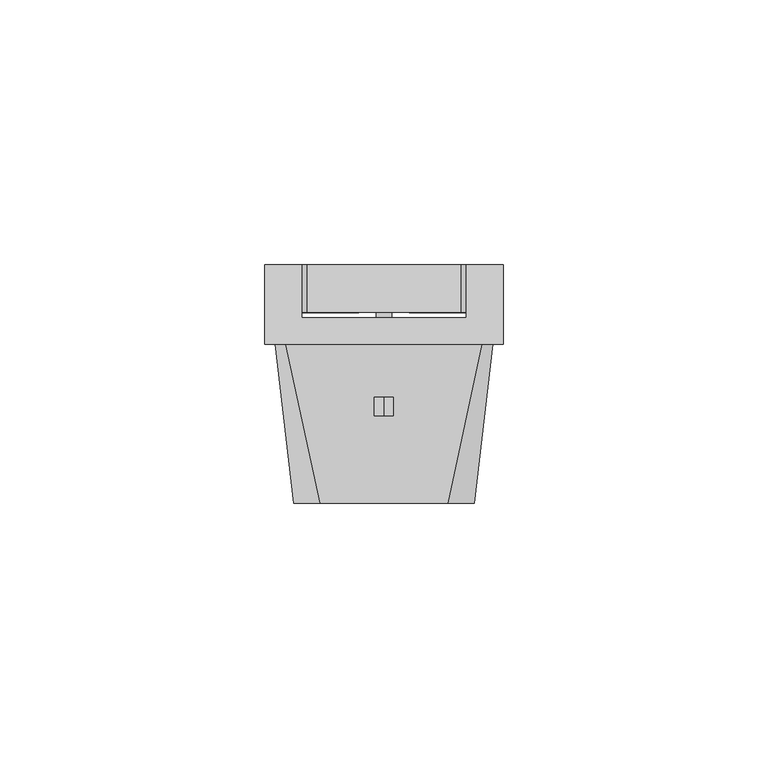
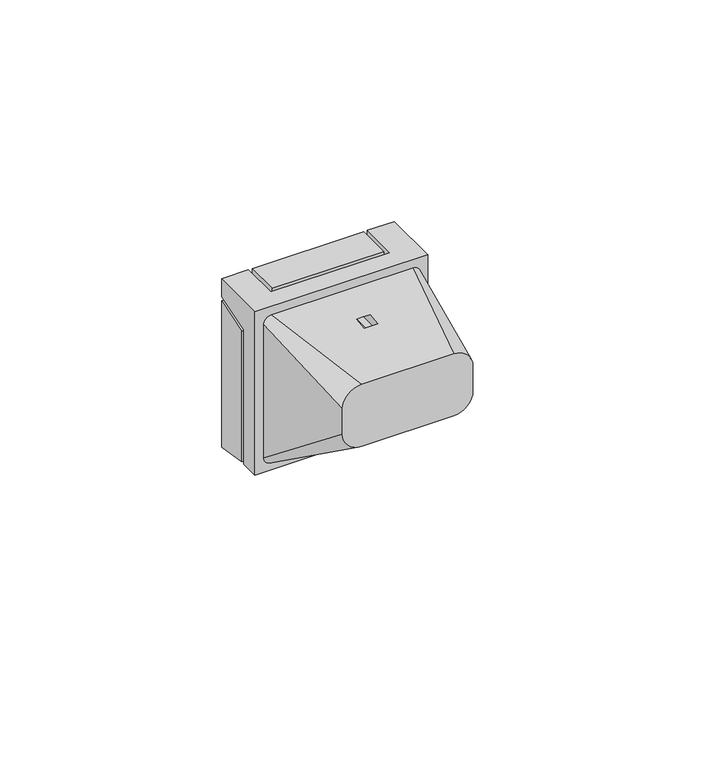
"""IFC4 building model written with IfcOpenShell, lengths in millimetres: proxy geometry, IEK_Skandy_Механизм розетки 230В : 230 В PE+шт.+кр. IP44_SK-R11B."""

from ifc_helpers import new_model, si_unit, point, frame, frame_2d, origin, origin_2d, place, context, project, spatial, polyline, circle_curve, ellipse_curve, trimmed, segment, composite_curve, outline, extrude, faceted_brep, source, transform, mapped, element, save
from ifc_brep_helpers import plane_surface, cylinder_surface, revolved_surface, spline_surface, advanced_brep


def electrical_fixtures_7aa9f29c(model_context):
    return source(origin(), model_context, "Body", "SolidModel", [
        faceted_brep([(15.5, 15.0, 22.5), (22.5, 15.0, 22.5), (22.5, 15.0, 17.5), (15.5, 15.0, 17.5), (-22.5, 15.0, 22.5), (-15.5, 15.0, 22.5), (-15.5, 15.0, 17.5), (-22.5, 15.0, 17.5), (-22.5, 0.0, 22.5), (-22.5, 0.0, -22.5), (22.5, 0.0, -22.5), (22.5, 0.0, 22.5), (-22.5, 5.0, 14.501454), (-22.5, 5.0, -22.5), (22.5, 5.0, -22.5), (22.5, 5.0, 14.501454), (15.5, 5.0, 22.5), (-15.5, 5.0, 22.5), (15.5, 5.0, 14.501454), (-15.5, 5.0, 14.501454), (18.3514689, 5.0, -3.1615677), (18.3514689, 5.0, 2.8384323), (4.7443645, 5.0, 2.8384323), (4.7443645, 5.0, -3.1615677), (-18.243706, 5.0, 2.8384323), (-18.243706, 5.0, -3.1615677), (-4.7443645, 5.0, -3.1615677), (-4.7443645, 5.0, 2.8384323), (18.3514689, 1.865818, 2.8384323), (18.3514689, 1.865818, -3.1615677), (4.7443645, 1.865818, -3.1615677), (4.7443645, 1.865818, 2.8384323), (-18.243706, 1.865818, 2.8384323), (-4.7443645, 1.865818, 2.8384323), (-4.7443645, 1.865818, -3.1615677), (-18.243706, 1.865818, -3.1615677)], [[[0, 1, 2, 3]], [[4, 5, 6, 7]], [[8, 9, 10, 11]], [[9, 8, 4, 7, 12, 13]], [[10, 9, 13, 14]], [[11, 10, 14, 15, 2, 1]], [[8, 11, 1, 0, 16, 17, 5, 4]], [[18, 15, 14, 13, 12, 19, 17, 16], [20, 21, 22, 23], [24, 25, 26, 27]], [[18, 16, 0, 3]], [[17, 19, 6, 5]], [[19, 12, 7, 6]], [[15, 18, 3, 2]], [[28, 29, 30, 31]], [[29, 28, 21, 20]], [[30, 29, 20, 23]], [[31, 30, 23, 22]], [[28, 31, 22, 21]], [[32, 33, 34, 35]], [[32, 35, 25, 24]], [[35, 34, 26, 25]], [[34, 33, 27, 26]], [[33, 32, 24, 27]]]),
        faceted_brep([(14.5, 15.0, 22.5), (14.5, 15.0, 16.5083131), (22.5, 15.0, 16.5083131), (22.5, 15.0, -23.9237578), (-22.5, 15.0, -23.9237578), (-22.5, 15.0, 16.5083131), (-14.5, 15.0, 16.5083131), (-14.5, 15.0, 22.5), (14.5, 6.0, 22.5), (-14.5, 6.0, 22.5), (-14.5, 6.0, 13.501454), (-22.5, 6.0, 13.501454), (-22.5, 6.0, -22.5), (22.5, 6.0, -22.5), (22.5, 6.0, 13.501454), (14.5, 6.0, 13.501454), (18.3514689, 6.0, 2.8384323), (18.3514689, 6.0, -3.1615677), (4.7443645, 6.0, -3.1615677), (4.7443645, 6.0, 2.8384323), (-18.243706, 6.0, -3.1615677), (-18.243706, 6.0, 2.8384323), (-4.7443645, 6.0, 2.8384323), (-4.7443645, 6.0, -3.1615677), (18.3514689, 10.0, 2.8384323), (4.7443645, 10.0, 2.8384323), (4.7443645, 10.0, -3.1615677), (18.3514689, 10.0, -3.1615677), (-18.243706, 10.0, 2.8384323), (-18.243706, 10.0, -3.1615677), (-4.7443645, 10.0, -3.1615677), (-4.7443645, 10.0, 2.8384323)], [[[0, 1, 2, 3, 4, 5, 6, 7]], [[8, 9, 10, 11, 12, 13, 14, 15], [16, 17, 18, 19], [20, 21, 22, 23]], [[1, 0, 8, 15]], [[2, 1, 15, 14]], [[3, 2, 14, 13]], [[5, 4, 12, 11]], [[6, 5, 11, 10]], [[7, 6, 10, 9]], [[0, 7, 9, 8]], [[4, 3, 13, 12]], [[24, 25, 26, 27]], [[24, 27, 17, 16]], [[27, 26, 18, 17]], [[26, 25, 19, 18]], [[25, 24, 16, 19]], [[28, 29, 30, 31]], [[29, 28, 21, 20]], [[30, 29, 20, 23]], [[31, 30, 23, 22]], [[28, 31, 22, 21]]]),
        advanced_brep(
        [(-12.0, -30.0, 17.0), (-17.0, -30.0, 12.0), (-17.0, -30.0, 5.0), (-12.0, -30.0, 0.0), (12.0, -30.0, 0.0), (17.0, -30.0, 5.0), (17.0, -30.0, 12.0), (12.0, -30.0, 17.0), (-18.5, 0.0, 20.5), (18.5, 0.0, 20.5), (20.5, 0.0, 18.5), (20.5, 0.0, -18.5), (18.5, 0.0, -20.5), (-18.5, 0.0, -20.5), (-20.5, 0.0, -18.5), (-20.5, 0.0, 18.5), (6.3904783, 0.0, 0.0), (11.8753617, 0.0, 0.0), (-3.0105286, 0.0, 0.0), (3.0105286, 0.0, 0.0), (-11.8753617, 0.0, 0.0), (-6.3904783, 0.0, 0.0), (1.7917908, 0.0, -19.3280847), (1.7917908, 0.0, -16.8280847), (0.0, 0.0, -16.8280847), (-1.7917908, 0.0, -16.8280847), (-1.7917908, 0.0, -19.3280847), (0.0, 0.0, -19.3280847), (1.7917908, 0.0, 19.3280847), (0.0, 0.0, 19.3280847), (-1.7917908, 0.0, 19.3280847), (-1.7917908, 0.0, 16.8280847), (0.0, 0.0, 16.8280847), (1.7917908, 0.0, 16.8280847), (1.7917908, -13.4962918, 18.9254326), (-1.7917908, -13.4962918, 18.9254326), (-1.7917908, -10.0449886, 19.3280847), (0.0, -10.0449886, 19.3280847), (1.7917908, -10.0449886, 19.3280847), (1.7917908, -5.3735346, -16.8280847), (1.7917908, -1.7149981, -19.3280847), (0.0, -1.7149981, -19.3280847), (-1.7917908, -1.7149981, -19.3280847), (-1.7917908, -5.3735346, -16.8280847), (0.0, -5.3735346, -16.8280847), (6.3904783, -13.4962918, 0.0), (11.8753617, -13.4962918, 0.0), (-3.0105286, -13.4962918, 0.0), (3.0105286, -13.4962918, 0.0), (-11.8753617, -13.4962918, 0.0), (-6.3904783, -13.4962918, 0.0), (1.7917908, -13.4962918, 16.8280847), (0.0, -13.4962918, 16.8280847), (-1.7917908, -13.4962918, 16.8280847)],
        [
            (0, 1, circle_curve(frame((-12.0, -30.0, 12.0), z_axis=(0.0, -1.0, 0.0), x_axis=(1.0, 0.0, 0.0)), 5.0)),
            (1, 2),
            (2, 3, circle_curve(frame((-12.0, -30.0, 5.0), z_axis=(0.0, -1.0, 0.0), x_axis=(1.0, 0.0, 0.0)), 5.0)),
            (3, 4),
            (4, 5, circle_curve(frame((12.0, -30.0, 5.0), z_axis=(0.0, -1.0, 0.0), x_axis=(1.0, 0.0, 0.0)), 5.0)),
            (5, 6),
            (6, 7, circle_curve(frame((12.0, -30.0, 12.0), z_axis=(0.0, -1.0, 0.0), x_axis=(1.0, 0.0, 0.0)), 5.0)),
            (7, 0),
            (8, 9),
            (9, 10, circle_curve(frame((18.5, 0.0, 18.5), z_axis=(0.0, 1.0, 0.0), x_axis=(1.0, 0.0, 0.0)), 2.0)),
            (10, 11),
            (11, 12, circle_curve(frame((18.5, 0.0, -18.5), z_axis=(0.0, 1.0, 0.0), x_axis=(1.0, 0.0, 0.0)), 2.0)),
            (12, 13),
            (13, 14, circle_curve(frame((-18.5, 0.0, -18.5), z_axis=(0.0, 1.0, 0.0), x_axis=(1.0, 0.0, 0.0)), 2.0)),
            (14, 15),
            (15, 8, circle_curve(frame((-18.5, 0.0, 18.5), z_axis=(0.0, 1.0, 0.0), x_axis=(1.0, 0.0, 0.0)), 2.0)),
            (16, 17, circle_curve(frame((9.13292, 0.0, 0.0), z_axis=(0.0, -1.0, 0.0), x_axis=(1.0, 0.0, 0.0)), 2.7424417)),
            (17, 16, circle_curve(frame((9.13292, 0.0, 0.0), z_axis=(0.0, -1.0, 0.0), x_axis=(1.0, 0.0, 0.0)), 2.7424417)),
            (18, 19, circle_curve(frame((0.0, 0.0, 0.0), z_axis=(0.0, -1.0, 0.0), x_axis=(1.0, 0.0, 0.0)), 3.0105286)),
            (19, 18, circle_curve(frame((0.0, 0.0, 0.0), z_axis=(0.0, -1.0, 0.0), x_axis=(1.0, 0.0, 0.0)), 3.0105286)),
            (20, 21, circle_curve(frame((-9.13292, 0.0, 0.0), z_axis=(0.0, -1.0, 0.0), x_axis=(1.0, 0.0, 0.0)), 2.7424417)),
            (21, 20, circle_curve(frame((-9.13292, 0.0, 0.0), z_axis=(0.0, -1.0, 0.0), x_axis=(1.0, 0.0, 0.0)), 2.7424417)),
            (22, 23),
            (23, 24),
            (24, 25),
            (25, 26),
            (26, 27),
            (27, 22),
            (28, 29),
            (29, 30),
            (30, 31),
            (31, 32),
            (32, 33),
            (33, 28),
            (7, 9),
            (8, 0),
            (34, 35),
            (35, 36),
            (36, 37),
            (37, 38),
            (38, 34),
            (6, 10),
            (5, 11),
            (4, 12),
            (3, 13),
            (39, 40),
            (40, 41),
            (41, 42),
            (42, 43),
            (43, 44),
            (44, 39),
            (2, 14),
            (1, 15),
            (45, 46, circle_curve(frame((9.13292, -13.4962918, 0.0), z_axis=(0.0, 1.0, 0.0), x_axis=(1.0, 0.0, 0.0)), 2.7424417)),
            (46, 45, circle_curve(frame((9.13292, -13.4962918, 0.0), z_axis=(0.0, 1.0, 0.0), x_axis=(1.0, 0.0, 0.0)), 2.7424417)),
            (47, 48, circle_curve(frame((0.0, -13.4962918, 0.0), z_axis=(0.0, 1.0, 0.0), x_axis=(1.0, 0.0, 0.0)), 3.0105286)),
            (48, 47, circle_curve(frame((0.0, -13.4962918, 0.0), z_axis=(0.0, 1.0, 0.0), x_axis=(1.0, 0.0, 0.0)), 3.0105286)),
            (49, 50, circle_curve(frame((-9.13292, -13.4962918, 0.0), z_axis=(0.0, 1.0, 0.0), x_axis=(1.0, 0.0, 0.0)), 2.7424417)),
            (50, 49, circle_curve(frame((-9.13292, -13.4962918, 0.0), z_axis=(0.0, 1.0, 0.0), x_axis=(1.0, 0.0, 0.0)), 2.7424417)),
            (51, 52),
            (52, 53),
            (53, 35),
            (34, 51),
            (46, 17),
            (16, 45),
            (48, 19),
            (18, 47),
            (50, 21),
            (20, 49),
            (28, 38),
            (37, 29),
            (36, 30),
            (53, 31),
            (52, 32),
            (51, 33),
            (22, 40),
            (39, 23),
            (44, 24),
            (43, 25),
            (42, 26),
            (41, 27),
        ],
        [
            plane_surface(frame((0.0, -30.0, 8.5), z_axis=(0.0, -1.0, 0.0), x_axis=(-1.0, 0.0, 0.0))),
            plane_surface(frame((0.0, 0.0, 0.0), z_axis=(0.0, 1.0, 0.0), x_axis=(-1.0, 0.0, 0.0))),
            plane_surface(frame((0.0, 0.0, 20.5), z_axis=(0.0, -0.11588069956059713, 0.9932631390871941), x_axis=(-1.0, 0.0, 0.0))),
            spline_surface(2, 1, [[(20.5, 0.0, 18.5), (17.0, -30.0, 12.0)], [(20.5, 0.0, 20.5), (17.0, -30.0, 17.0)], [(18.5, 0.0, 20.5), (12.0, -30.0, 17.0)]], [3, 3], [2, 2], [0.0, 1.0], [0.0, 1.0], weights=[[1.0, 1.0], [0.7071067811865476, 0.7071067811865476], [1.0, 1.0]]),
            plane_surface(frame((20.5, 0.0, 0.0), z_axis=(0.993263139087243, -0.11588069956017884, 0.0), x_axis=(0.0, 0.0, 1.0))),
            spline_surface(2, 1, [[(18.5, 0.0, -20.5), (12.0, -30.0, 0.0)], [(20.5, 0.0, -20.5), (17.0, -30.0, 0.0)], [(20.5, 0.0, -18.5), (17.0, -30.0, 5.0)]], [3, 3], [2, 2], [0.0, 1.0], [0.0, 1.0], weights=[[1.0, 1.0], [0.7071067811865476, 0.7071067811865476], [1.0, 1.0]]),
            plane_surface(frame((0.0, 0.0, -20.5), z_axis=(0.0, -0.5641905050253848, -0.8256446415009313), x_axis=(1.0, 0.0, 0.0))),
            spline_surface(2, 1, [[(-20.5, 0.0, -18.5), (-17.0, -30.0, 5.0)], [(-20.5, 0.0, -20.5), (-17.0, -30.0, 0.0)], [(-18.5, 0.0, -20.5), (-12.0, -30.0, 0.0)]], [3, 3], [2, 2], [0.0, 1.0], [0.0, 1.0], weights=[[1.0, 1.0], [0.7071067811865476, 0.7071067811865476], [1.0, 1.0]]),
            plane_surface(frame((-20.5, 0.0, 0.0), z_axis=(-0.9932631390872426, -0.11588069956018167, 0.0), x_axis=(0.0, 0.0, -1.0))),
            spline_surface(2, 1, [[(-18.5, 0.0, 20.5), (-12.0, -30.0, 17.0)], [(-20.5, 0.0, 20.5), (-17.0, -30.0, 17.0)], [(-20.5, 0.0, 18.5), (-17.0, -30.0, 12.0)]], [3, 3], [2, 2], [0.0, 1.0], [0.0, 1.0], weights=[[1.0, 1.0], [0.7071067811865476, 0.7071067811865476], [1.0, 1.0]]),
            plane_surface(frame((11.8753617, -13.4962918, 0.0), z_axis=(0.0, 1.0, 0.0), x_axis=(0.0, 0.0, 1.0))),
            revolved_surface(polyline([(11.875361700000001, -13.4962918, 0.0), (11.875361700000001, 0.0, 0.0)]), (9.13292, 0.0, 0.0), (0.0, -1.0, 0.0)),
            revolved_surface(polyline([(3.0105286, -13.4962918, 0.0), (3.0105286, 0.0, 0.0)]), (0.0, -2.0, 0.0), (0.0, -1.0, 0.0)),
            revolved_surface(polyline([(-6.3904783, -13.4962918, 0.0), (-6.3904783, 0.0, 0.0)]), (-9.13292, -2.0, 0.0), (0.0, -1.0, 0.0)),
            plane_surface(frame((1.7917908, -13.4962918, 19.3280847), z_axis=(0.0, 0.0, -1.0), x_axis=(0.0, 1.0, 0.0))),
            plane_surface(frame((0.0, -13.4962918, 19.3280847), z_axis=(0.0, 0.0, -1.0), x_axis=(0.0, 1.0, 0.0))),
            plane_surface(frame((-1.7917908, -13.4962918, 19.3280847), z_axis=(1.0, 0.0, 0.0), x_axis=(0.0, 1.0, 0.0))),
            plane_surface(frame((-1.7917908, -13.4962918, 16.8280847), z_axis=(0.0, 0.0, 1.0), x_axis=(0.0, 1.0, 0.0))),
            plane_surface(frame((0.0, -13.4962918, 16.8280847), z_axis=(0.0, 0.0, 1.0), x_axis=(0.0, 1.0, 0.0))),
            plane_surface(frame((1.7917908, -13.4962918, 16.8280847), z_axis=(-1.0, 0.0, 0.0), x_axis=(0.0, 1.0, 0.0))),
            plane_surface(frame((1.7917908, -13.4962918, -19.3280847), z_axis=(-1.0, 0.0, 0.0), x_axis=(0.0, 1.0, 0.0))),
            plane_surface(frame((1.7917908, -13.4962918, -16.8280847), z_axis=(0.0, 0.0, -1.0), x_axis=(0.0, 1.0, 0.0))),
            plane_surface(frame((0.0, -13.4962918, -16.8280847), z_axis=(0.0, 0.0, -1.0), x_axis=(0.0, 1.0, 0.0))),
            plane_surface(frame((-1.7917908, -13.4962918, -16.8280847), z_axis=(1.0, 0.0, 0.0), x_axis=(0.0, 1.0, 0.0))),
            plane_surface(frame((-1.7917908, -13.4962918, -19.3280847), z_axis=(0.0, 0.0, 1.0), x_axis=(0.0, 1.0, 0.0))),
            plane_surface(frame((0.0, -13.4962918, -19.3280847), z_axis=(0.0, 0.0, 1.0), x_axis=(0.0, 1.0, 0.0))),
        ],
        [
            (0, [[1, 2, 3, 4, 5, 6, 7, 8]]),
            (1, [[9, 10, 11, 12, 13, 14, 15, 16], [17, 18], [19, 20], [21, 22], [23, 24, 25, 26, 27, 28], [29, 30, 31, 32, 33, 34]]),
            (2, [[-8, 35, -9, 36], [37, 38, 39, 40, 41]]),
            (3, [[-7, 42, -10, -35]]),
            (4, [[-6, 43, -11, -42]]),
            (5, [[-5, 44, -12, -43]]),
            (6, [[-4, 45, -13, -44], [46, 47, 48, 49, 50, 51]]),
            (7, [[-3, 52, -14, -45]]),
            (8, [[-2, 53, -15, -52]]),
            (9, [[-1, -36, -16, -53]]),
            (10, [[54, 55]]),
            (10, [[56, 57]]),
            (10, [[58, 59]]),
            (10, [[60, 61, 62, -37, 63]]),
            (11, [[-55, 64, -17, 65]]),
            (11, [[-54, -65, -18, -64]]),
            (12, [[-57, 66, -19, 67]]),
            (12, [[-56, -67, -20, -66]]),
            (13, [[-59, 68, -21, 69]]),
            (13, [[-58, -69, -22, -68]]),
            (14, [[70, -40, 71, -29]]),
            (15, [[-71, -39, 72, -30]]),
            (16, [[73, -31, -72, -38, -62]]),
            (17, [[-61, 74, -32, -73]]),
            (18, [[-60, 75, -33, -74]]),
            (19, [[-75, -63, -41, -70, -34]]),
            (20, [[76, -46, 77, -23]]),
            (21, [[-77, -51, 78, -24]]),
            (22, [[-78, -50, 79, -25]]),
            (23, [[-79, -49, 80, -26]]),
            (24, [[-80, -48, 81, -27]]),
            (25, [[-76, -28, -81, -47]]),
        ],
    ),
        extrude(outline(composite_curve([segment(polyline([(7.6710794, -19.3739261), (-1.7, -18.7042816), (-1.7, -17.5095674), (5.5330873, -18.3510967)]), True, "CONTINUOUS"), segment(trimmed(circle_curve(frame_2d((6.4251956, -19.2322549)), 1.2539127), [point((5.5330873, -18.3510967))], [point((7.6710794, -19.3739261))], False, "CARTESIAN"), True, "CONTINUOUS")], self_intersect=False)), frame((-1.5, 0.0, 0.0), z_axis=(1.0, 0.0, 0.0), x_axis=(0.0, 1.0, 0.0)), (0.0, 0.0, 1.0), 3.0),
        extrude(outline(composite_curve([segment(trimmed(circle_curve(frame_2d((6.4251956, 19.2322549)), 1.2539127), [point((7.6710794, 19.3739261))], [point((5.5330873, 18.3510967))], False, "CARTESIAN"), True, "CONTINUOUS"), segment(polyline([(5.5330873, 18.3510967), (-1.7, 17.5095674), (-1.7, 18.7042816), (7.6710794, 19.3739261)]), True, "CONTINUOUS")], self_intersect=False)), frame((-1.5, 0.0, 0.0), z_axis=(1.0, 0.0, 0.0), x_axis=(0.0, 1.0, 0.0)), (0.0, 0.0, 1.0), 3.0),
        advanced_brep(
        [(0.0, 0.078125, -2.8986917), (0.0, 0.078125, 2.8986917), (0.0, 0.8649081, 0.0), (0.0, -1.7, -2.8986917), (0.0, -1.7, 2.8986917), (0.0, -1.7, 0.0)],
        [
            (0, 1, circle_curve(frame((0.0, 0.078125, 0.0), z_axis=(0.0, 1.0, 0.0), x_axis=(0.0, 0.0, 1.0)), 2.8986917)),
            (1, 2, ellipse_curve(frame((0.0, 0.078125, 0.15625), z_axis=(-1.0, 0.0, 0.0), x_axis=(0.0, 0.0, 1.0)), 2.7424417, 0.7880633)),
            (2, 0, ellipse_curve(frame((0.0, 0.078125, -0.15625), z_axis=(-1.0, 0.0, 0.0), x_axis=(0.0, 0.0, -1.0)), 2.7424417, 0.7880633)),
            (1, 0, circle_curve(frame((0.0, 0.078125, 0.0), z_axis=(0.0, 1.0, 0.0), x_axis=(0.0, 0.0, 1.0)), 2.8986917)),
            (3, 4, circle_curve(frame((0.0, -1.7, 0.0), z_axis=(0.0, 1.0, 0.0), x_axis=(0.0, 0.0, 1.0)), 2.8986917)),
            (4, 1),
            (0, 3),
            (4, 3, circle_curve(frame((0.0, -1.7, 0.0), z_axis=(0.0, 1.0, 0.0), x_axis=(0.0, 0.0, 1.0)), 2.8986917)),
            (5, 4),
            (3, 5),
        ],
        [
            revolved_surface(trimmed(ellipse_curve(frame((0.0, 0.078125, 0.15625), z_axis=(1.0, 0.0, 0.0), x_axis=(0.0, 0.0, 1.0)), 2.7424417, 0.7880633), [point((0.0, 0.8649081, 0.0))], [point((0.0, 0.078125, 2.8986917))], True, "CARTESIAN"), (0.0, -3.0228134, 0.0), (0.0, -1.0, 0.0)),
            cylinder_surface(frame((0.0, -3.0228134, 0.0), z_axis=(0.0, -1.0, 0.0), x_axis=(0.0, 0.0, 1.0)), 2.8986917),
            plane_surface(frame((0.0, -1.7, 0.0), z_axis=(0.0, -1.0, 0.0), x_axis=(0.0, 0.0, 1.0))),
        ],
        [
            (0, [[1, 2, 3]]),
            (0, [[4, -3, -2]]),
            (1, [[5, 6, -1, 7]]),
            (1, [[8, -7, -4, -6]]),
            (2, [[9, -5, 10]]),
            (2, [[-10, -8, -9]]),
        ],
    ),
        extrude(outline(composite_curve([segment(polyline([(3.2980592, 16.488464), (3.2980592, 19.7261959)]), True, "CONTINUOUS"), segment(trimmed(circle_curve(origin_2d(), 20.0), [point((3.2980592, 19.7261959))], [point((11.3194768, 16.488464))], False, "CARTESIAN"), True, "CONTINUOUS"), segment(polyline([(11.3194768, 16.488464), (3.2980592, 16.488464)]), True, "CONTINUOUS")], self_intersect=False)), frame((0.0, 0.0, 0.0), z_axis=(0.0, 1.0, 0.0), x_axis=(0.0, 0.0, 1.0)), (0.0, 0.0, 1.0), 8.0),
        extrude(outline(composite_curve([segment(polyline([(-3.2980592, 16.488464), (-11.3194768, 16.488464)]), True, "CONTINUOUS"), segment(trimmed(circle_curve(origin_2d(), 20.0), [point((-11.3194768, 16.488464))], [point((-3.2980592, 19.7261959))], False, "CARTESIAN"), True, "CONTINUOUS"), segment(polyline([(-3.2980592, 19.7261959), (-3.2980592, 16.488464)]), True, "CONTINUOUS")], self_intersect=False)), frame((0.0, 0.0, 0.0), z_axis=(0.0, 1.0, 0.0), x_axis=(0.0, 0.0, 1.0)), (0.0, 0.0, 1.0), 8.0),
        extrude(outline(composite_curve([segment(polyline([(3.2980592, -16.488464), (11.3194768, -16.488464)]), True, "CONTINUOUS"), segment(trimmed(circle_curve(origin_2d(), 20.0), [point((11.3194768, -16.488464))], [point((3.2980592, -19.7261959))], False, "CARTESIAN"), True, "CONTINUOUS"), segment(polyline([(3.2980592, -19.7261959), (3.2980592, -16.488464)]), True, "CONTINUOUS")], self_intersect=False)), frame((0.0, 0.0, 0.0), z_axis=(0.0, 1.0, 0.0), x_axis=(0.0, 0.0, 1.0)), (0.0, 0.0, 1.0), 8.0),
        extrude(outline(composite_curve([segment(polyline([(-3.2980592, -16.488464), (-3.2980592, -19.7261959)]), True, "CONTINUOUS"), segment(trimmed(circle_curve(origin_2d(), 20.0), [point((-3.2980592, -19.7261959))], [point((-11.3194768, -16.488464))], False, "CARTESIAN"), True, "CONTINUOUS"), segment(polyline([(-11.3194768, -16.488464), (-3.2980592, -16.488464)]), True, "CONTINUOUS")], self_intersect=False)), frame((0.0, 0.0, 0.0), z_axis=(0.0, 1.0, 0.0), x_axis=(0.0, 0.0, 1.0)), (0.0, 0.0, 1.0), 8.0),
    ])


if __name__ == "__main__":
    model = new_model("IFC4")
    model_context = context("Model", 3, world=origin())
    ifc_project = project(units=[si_unit("LENGTHUNIT", "METRE", prefix="MILLI")], contexts=[model_context])
    site = spatial("IfcSite", under=ifc_project)
    building = spatial("IfcBuilding", under=site)
    placement = place(None, origin())
    electrical_fixtures_shape = electrical_fixtures_7aa9f29c(model_context)
    element("IfcBuildingElementProxy", 1, Name="IEK_Skandy_Механизм розетки 230В : 230 В PE+шт.+кр. IP44_SK-R11B", ObjectType="IEK_Skandy_Механизм розетки 230В : 230 В PE+шт.+кр. IP44_SK-R11B", at=placement, inside=building, context=model_context, shape_type="MappedRepresentation", body=[
        mapped(electrical_fixtures_shape, transform((0.0, 0.0, 0.0), x_axis=(1.0, 0.0, 0.0), y_axis=(0.0, 1.0, 0.0), z_axis=(0.0, 0.0, 1.0))),
    ])
    save(model, "model.ifc")
